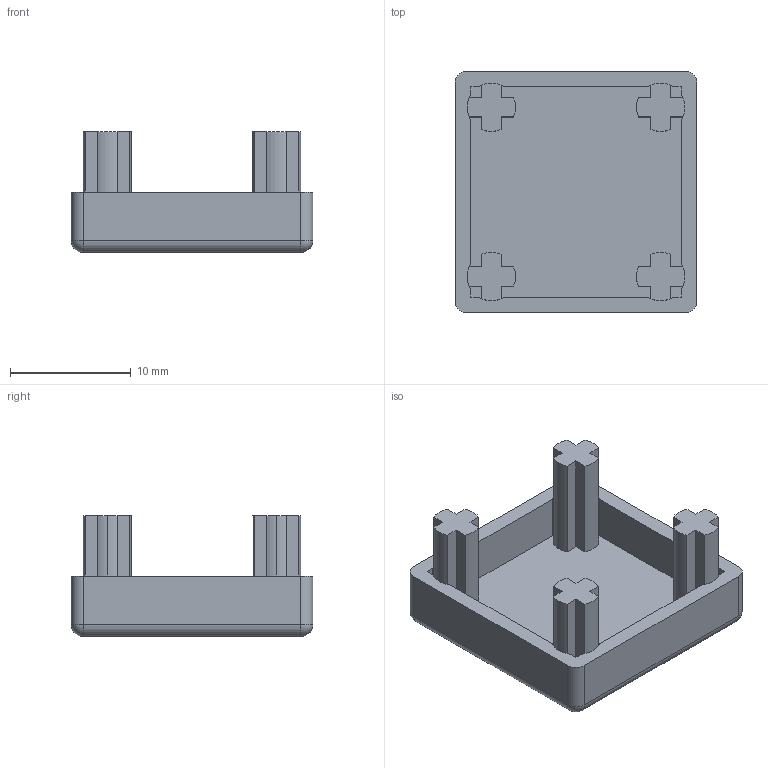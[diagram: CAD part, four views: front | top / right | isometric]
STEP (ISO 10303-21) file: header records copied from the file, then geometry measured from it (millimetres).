
FILE_DESCRIPTION (( 'STEP AP203' ), '1' );
FILE_NAME ('DEC2020.STEP', '2022-06-23T03:28:32', ( '' ), ( '' ), 'SwSTEP 2.0', 'SolidWorks 2017', '' );
FILE_SCHEMA (( 'CONFIG_CONTROL_DESIGN' ));
Length unit declared in the file: millimetre
Products named in the file (1): DEC2020
Bounding box: 20 x 20 x 10 mm (x, y, z)
Volume: 1190.5 mm3; surface area: 1835.8 mm2
Topology: 1 solids, 1 shells, 107 faces, 288 edges, 180 vertices
Faces by surface type: plane 59, cylinder 44, sphere 4
Entity records: 3379 total; most frequent: DIRECTION 588, CARTESIAN_POINT 572, ORIENTED_EDGE 568, EDGE_CURVE 284, VECTOR 196, LINE 196, AXIS2_PLACEMENT_3D 196, VERTEX_POINT 180
